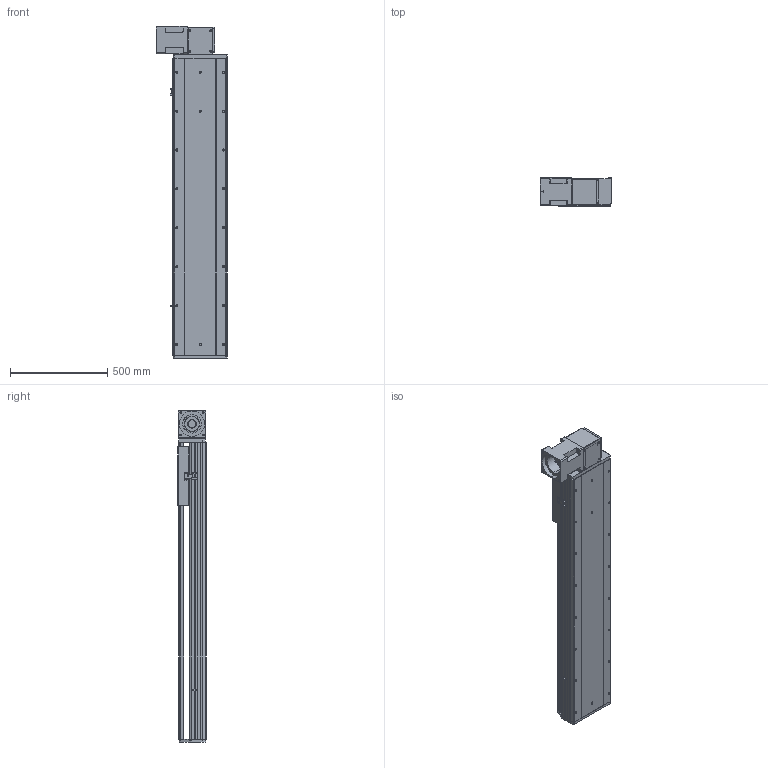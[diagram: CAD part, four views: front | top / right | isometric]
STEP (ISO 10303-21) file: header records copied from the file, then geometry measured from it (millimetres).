
FILE_DESCRIPTION (( 'STEP AP214' ), '1' );
FILE_NAME ('RTB28R-XX-1100-BR-M100-XX-C4.STEP', '2025-12-22T01:11:17', ( '' ), ( '' ), 'SwSTEP 2.0', 'SolidWorks 2018', '' );
FILE_SCHEMA (( 'AUTOMOTIVE_DESIGN' ));
Length unit declared in the file: millimetre
Products named in the file (4): RTB28S-GY-004^RTB28R-XX-XX-BR-M100-XX-C4; RTB28S-GY-008^RTB28R-XX-XX-BR-M100-XX-C4; RTB28R-XX-1100-BR-M100-XX-C4; RTB28S-GY-011^RTB28R-XX-XX-BR-M100-XX-C4
Assembly tree (3 placements, depth 2):
  RTB28R-XX-1100-BR-M100-XX-C4
    RTB28S-GY-011^RTB28R-XX-XX-BR-M100-XX-C4
    RTB28S-GY-004^RTB28R-XX-XX-BR-M100-XX-C4
    RTB28S-GY-008^RTB28R-XX-XX-BR-M100-XX-C4
Bounding box: 370 x 145 x 1707 mm (x, y, z)
Volume: 31194626.6 mm3; surface area: 3002244.3 mm2
Topology: 3 solids, 4 shells, 988 faces, 2610 edges, 1676 vertices
Faces by surface type: plane 456, cylinder 361, bspline 87, cone 80, torus 4
Entity records: 42202 total; most frequent: CARTESIAN_POINT 11245, ORIENTED_EDGE 5156, DIRECTION 4998, EDGE_CURVE 2578, AXIS2_PLACEMENT_3D 1713, VERTEX_POINT 1676, LINE 1572, VECTOR 1572
